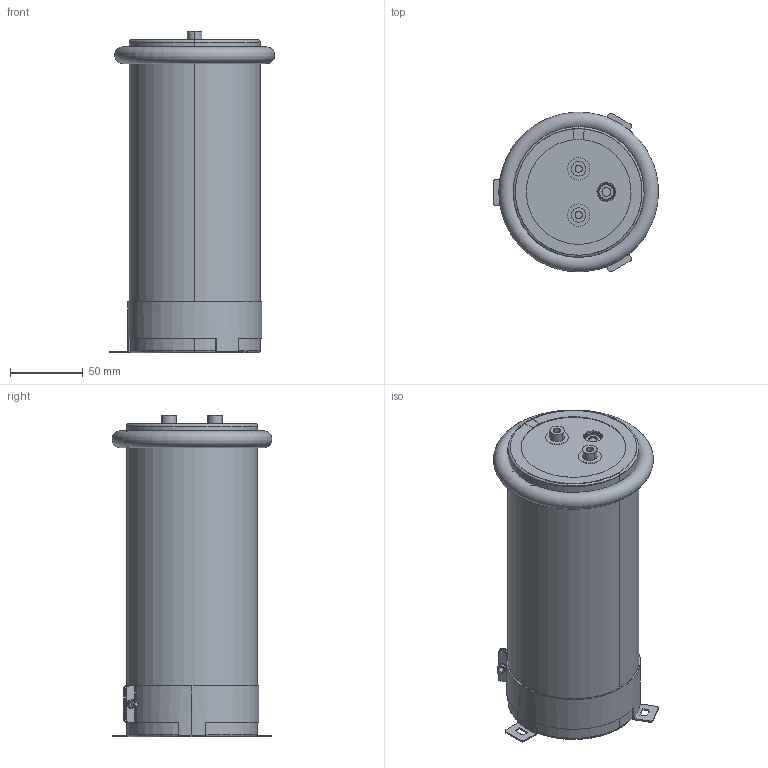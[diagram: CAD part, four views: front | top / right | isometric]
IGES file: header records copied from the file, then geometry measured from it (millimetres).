
Start section: 3D InterOp IGES (v. 2019 1.0.2), Spatial Corp. Copyright (c) 1999-2017.
Global section: file name: 90x215_Screw.igs; native system: Spatial Corp.; preprocessor: 3D InterOp ACIS/IGES; author: Noname; organization: Noname; date: 20220314.174436; units: millimetre
Bounding box: 113.35 x 109.69 x 221 mm (x, y, z)
Volume: 1712458.5 mm3; surface area: 362117.2 mm2
Topology: 9 solids, 9 shells, 352 faces, 953 edges, 591 vertices
Faces by surface type: plane 112, cylinder 110, torus 90, cone 38, sphere 2
